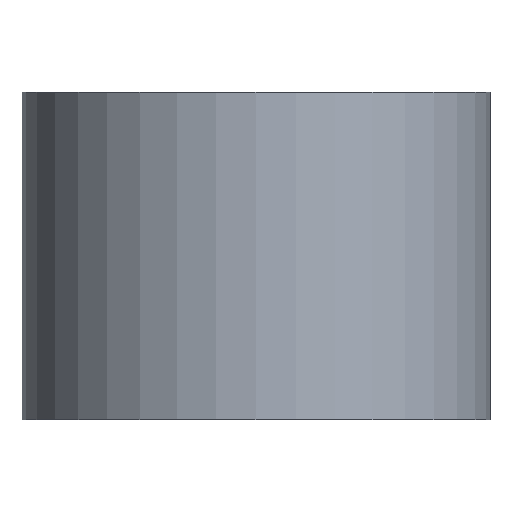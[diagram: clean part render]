
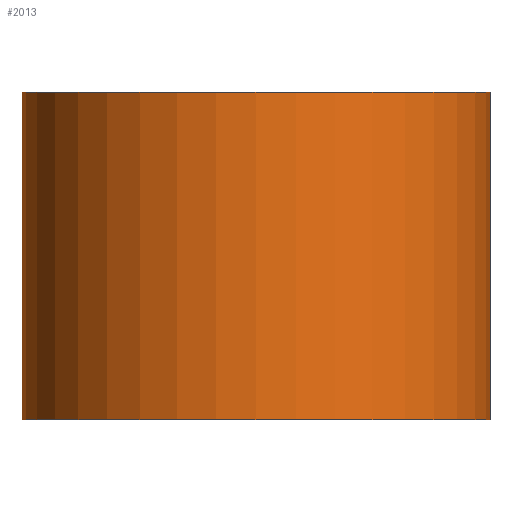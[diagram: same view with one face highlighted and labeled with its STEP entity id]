
A CAD part, left-side view. The second image highlights one B-rep face of the part: STEP entity #2013.
In plain terms, the highlighted cylindrical face has radius 20 mm (diameter 40 mm), a partial arc.
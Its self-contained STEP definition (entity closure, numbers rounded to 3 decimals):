
#2013 = ADVANCED_FACE('',(#2014),#2029,.T.);
#2014 = FACE_BOUND('',#2015,.F.);
#2015 = EDGE_LOOP('',(#2016,#2052,#2078,#2107));
#2016 = ORIENTED_EDGE('',*,*,#2017,.F.);
#2017 = EDGE_CURVE('',#2018,#2020,#2022,.T.);
#2018 = VERTEX_POINT('',#2019);
#2019 = CARTESIAN_POINT('',(-0.3,19.998,140.));
#2020 = VERTEX_POINT('',#2021);
#2021 = CARTESIAN_POINT('',(-0.3,-19.998,140.));
#2022 = SURFACE_CURVE('',#2023,(#2028,#2040),.PCURVE_S1.);
#2023 = CIRCLE('',#2024,20.);
#2024 = AXIS2_PLACEMENT_3D('',#2025,#2026,#2027);
#2025 = CARTESIAN_POINT('',(0.,0.,140.));
#2026 = DIRECTION('',(0.,0.,1.));
#2027 = DIRECTION('',(1.,0.,0.));
#2028 = PCURVE('',#2029,#2034);
#2029 = CYLINDRICAL_SURFACE('',#2030,20.);
#2030 = AXIS2_PLACEMENT_3D('',#2031,#2032,#2033);
#2031 = CARTESIAN_POINT('',(0.,0.,140.));
#2032 = DIRECTION('',(-0.,-0.,-1.));
#2033 = DIRECTION('',(1.,0.,0.));
#2034 = DEFINITIONAL_REPRESENTATION('',(#2035),#2039);
#2035 = LINE('',#2036,#2037);
#2036 = CARTESIAN_POINT('',(-0.,0.));
#2037 = VECTOR('',#2038,1.);
#2038 = DIRECTION('',(-1.,0.));
#2039 = ( GEOMETRIC_REPRESENTATION_CONTEXT(2) 
PARAMETRIC_REPRESENTATION_CONTEXT() REPRESENTATION_CONTEXT('2D SPACE',''
  ) );
#2040 = PCURVE('',#2041,#2046);
#2041 = PLANE('',#2042);
#2042 = AXIS2_PLACEMENT_3D('',#2043,#2044,#2045);
#2043 = CARTESIAN_POINT('',(0.,0.,140.));
#2044 = DIRECTION('',(0.,0.,1.));
#2045 = DIRECTION('',(1.,0.,-0.));
#2046 = DEFINITIONAL_REPRESENTATION('',(#2047),#2051);
#2047 = CIRCLE('',#2048,20.);
#2048 = AXIS2_PLACEMENT_2D('',#2049,#2050);
#2049 = CARTESIAN_POINT('',(0.,0.));
#2050 = DIRECTION('',(1.,0.));
#2051 = ( GEOMETRIC_REPRESENTATION_CONTEXT(2) 
PARAMETRIC_REPRESENTATION_CONTEXT() REPRESENTATION_CONTEXT('2D SPACE',''
  ) );
#2052 = ORIENTED_EDGE('',*,*,#2053,.F.);
#2053 = EDGE_CURVE('',#2054,#2018,#2056,.T.);
#2054 = VERTEX_POINT('',#2055);
#2055 = CARTESIAN_POINT('',(-0.3,19.998,168.));
#2056 = SURFACE_CURVE('',#2057,(#2061,#2067),.PCURVE_S1.);
#2057 = LINE('',#2058,#2059);
#2058 = CARTESIAN_POINT('',(-0.3,19.998,140.));
#2059 = VECTOR('',#2060,1.);
#2060 = DIRECTION('',(-0.,-0.,-1.));
#2061 = PCURVE('',#2029,#2062);
#2062 = DEFINITIONAL_REPRESENTATION('',(#2063),#2066);
#2063 = B_SPLINE_CURVE_WITH_KNOTS('',1,(#2064,#2065),.UNSPECIFIED.,.F.,
  .F.,(2,2),(-28.,0.),.PIECEWISE_BEZIER_KNOTS.);
#2064 = CARTESIAN_POINT('',(-1.586,-28.));
#2065 = CARTESIAN_POINT('',(-1.586,0.));
#2066 = ( GEOMETRIC_REPRESENTATION_CONTEXT(2) 
PARAMETRIC_REPRESENTATION_CONTEXT() REPRESENTATION_CONTEXT('2D SPACE',''
  ) );
#2067 = PCURVE('',#2068,#2073);
#2068 = PLANE('',#2069);
#2069 = AXIS2_PLACEMENT_3D('',#2070,#2071,#2072);
#2070 = CARTESIAN_POINT('',(-0.3,-25.,139.));
#2071 = DIRECTION('',(1.,0.,-0.));
#2072 = DIRECTION('',(0.,0.,1.));
#2073 = DEFINITIONAL_REPRESENTATION('',(#2074),#2077);
#2074 = B_SPLINE_CURVE_WITH_KNOTS('',1,(#2075,#2076),.UNSPECIFIED.,.F.,
  .F.,(2,2),(-28.,0.),.PIECEWISE_BEZIER_KNOTS.);
#2075 = CARTESIAN_POINT('',(29.,-44.998));
#2076 = CARTESIAN_POINT('',(1.,-44.998));
#2077 = ( GEOMETRIC_REPRESENTATION_CONTEXT(2) 
PARAMETRIC_REPRESENTATION_CONTEXT() REPRESENTATION_CONTEXT('2D SPACE',''
  ) );
#2078 = ORIENTED_EDGE('',*,*,#2079,.T.);
#2079 = EDGE_CURVE('',#2054,#2080,#2082,.T.);
#2080 = VERTEX_POINT('',#2081);
#2081 = CARTESIAN_POINT('',(-0.3,-19.998,168.));
#2082 = SURFACE_CURVE('',#2083,(#2088,#2095),.PCURVE_S1.);
#2083 = CIRCLE('',#2084,20.);
#2084 = AXIS2_PLACEMENT_3D('',#2085,#2086,#2087);
#2085 = CARTESIAN_POINT('',(0.,0.,168.));
#2086 = DIRECTION('',(0.,0.,1.));
#2087 = DIRECTION('',(1.,0.,0.));
#2088 = PCURVE('',#2029,#2089);
#2089 = DEFINITIONAL_REPRESENTATION('',(#2090),#2094);
#2090 = LINE('',#2091,#2092);
#2091 = CARTESIAN_POINT('',(-0.,-28.));
#2092 = VECTOR('',#2093,1.);
#2093 = DIRECTION('',(-1.,0.));
#2094 = ( GEOMETRIC_REPRESENTATION_CONTEXT(2) 
PARAMETRIC_REPRESENTATION_CONTEXT() REPRESENTATION_CONTEXT('2D SPACE',''
  ) );
#2095 = PCURVE('',#2096,#2101);
#2096 = PLANE('',#2097);
#2097 = AXIS2_PLACEMENT_3D('',#2098,#2099,#2100);
#2098 = CARTESIAN_POINT('',(0.,0.,168.));
#2099 = DIRECTION('',(0.,0.,1.));
#2100 = DIRECTION('',(1.,0.,-0.));
#2101 = DEFINITIONAL_REPRESENTATION('',(#2102),#2106);
#2102 = CIRCLE('',#2103,20.);
#2103 = AXIS2_PLACEMENT_2D('',#2104,#2105);
#2104 = CARTESIAN_POINT('',(0.,0.));
#2105 = DIRECTION('',(1.,0.));
#2106 = ( GEOMETRIC_REPRESENTATION_CONTEXT(2) 
PARAMETRIC_REPRESENTATION_CONTEXT() REPRESENTATION_CONTEXT('2D SPACE',''
  ) );
#2107 = ORIENTED_EDGE('',*,*,#2108,.T.);
#2108 = EDGE_CURVE('',#2080,#2020,#2109,.T.);
#2109 = SURFACE_CURVE('',#2110,(#2114,#2120),.PCURVE_S1.);
#2110 = LINE('',#2111,#2112);
#2111 = CARTESIAN_POINT('',(-0.3,-19.998,140.));
#2112 = VECTOR('',#2113,1.);
#2113 = DIRECTION('',(-0.,-0.,-1.));
#2114 = PCURVE('',#2029,#2115);
#2115 = DEFINITIONAL_REPRESENTATION('',(#2116),#2119);
#2116 = B_SPLINE_CURVE_WITH_KNOTS('',1,(#2117,#2118),.UNSPECIFIED.,.F.,
  .F.,(2,2),(-28.,0.),.PIECEWISE_BEZIER_KNOTS.);
#2117 = CARTESIAN_POINT('',(-4.697,-28.));
#2118 = CARTESIAN_POINT('',(-4.697,0.));
#2119 = ( GEOMETRIC_REPRESENTATION_CONTEXT(2) 
PARAMETRIC_REPRESENTATION_CONTEXT() REPRESENTATION_CONTEXT('2D SPACE',''
  ) );
#2120 = PCURVE('',#2121,#2126);
#2121 = PLANE('',#2122);
#2122 = AXIS2_PLACEMENT_3D('',#2123,#2124,#2125);
#2123 = CARTESIAN_POINT('',(-0.3,-25.,139.));
#2124 = DIRECTION('',(1.,0.,-0.));
#2125 = DIRECTION('',(0.,0.,1.));
#2126 = DEFINITIONAL_REPRESENTATION('',(#2127),#2130);
#2127 = B_SPLINE_CURVE_WITH_KNOTS('',1,(#2128,#2129),.UNSPECIFIED.,.F.,
  .F.,(2,2),(-28.,0.),.PIECEWISE_BEZIER_KNOTS.);
#2128 = CARTESIAN_POINT('',(29.,-5.002));
#2129 = CARTESIAN_POINT('',(1.,-5.002));
#2130 = ( GEOMETRIC_REPRESENTATION_CONTEXT(2) 
PARAMETRIC_REPRESENTATION_CONTEXT() REPRESENTATION_CONTEXT('2D SPACE',''
  ) );
